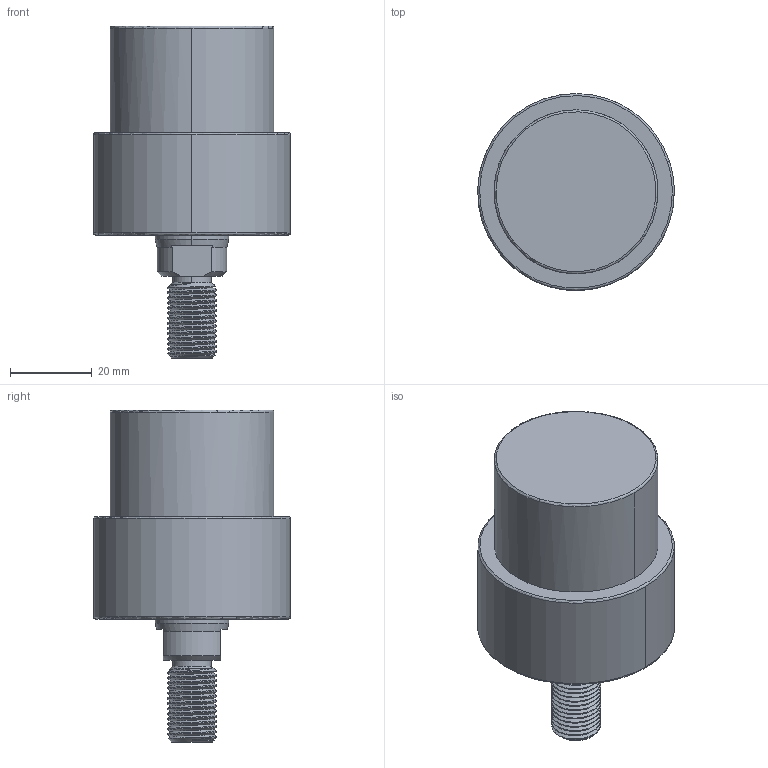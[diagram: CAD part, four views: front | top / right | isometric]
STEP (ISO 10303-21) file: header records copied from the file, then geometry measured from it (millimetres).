
FILE_DESCRIPTION((' '),'2;1');
FILE_NAME( 'TLLU-040GT-(01-014).STEP.stp', '2025-10-24T16:37:12', (' '), ('--- Datakit www.datakit.com---'), ' Datakit CrossCadWare V2024.1 Dec 21 2023', 'Mastercam 2025', ' ');
FILE_SCHEMA(('AUTOMOTIVE_DESIGN { 1 0 10303 214 1 1 1 1 }'));
Length unit declared in the file: millimetre
Products named in the file (1): TLLU-040GT-(01-014)
Bounding box: 47.99 x 48 x 81 mm (x, y, z)
Volume: 81044.3 mm3; surface area: 13066 mm2
Topology: 1 solids, 1 shells, 95 faces, 338 edges, 246 vertices
Faces by surface type: cylinder 49, cone 26, plane 12, torus 6, bspline 2
Entity records: 8829 total; most frequent: CARTESIAN_POINT 6038, ORIENTED_EDGE 660, DIRECTION 509, EDGE_CURVE 330, VERTEX_POINT 246, AXIS2_PLACEMENT_3D 214, B_SPLINE_CURVE_WITH_KNOTS 128, CIRCLE 120
